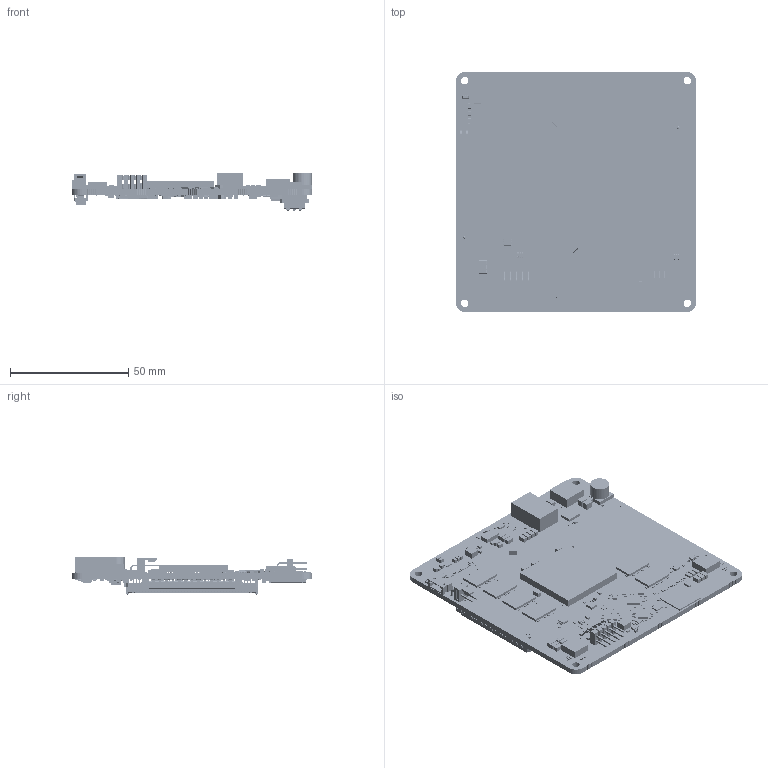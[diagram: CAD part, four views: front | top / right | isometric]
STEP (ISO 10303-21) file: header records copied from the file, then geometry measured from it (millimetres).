
FILE_DESCRIPTION(('Open CASCADE Model'),'2;1');
FILE_NAME('Open CASCADE Shape Model','2018-07-01T23:49:54',('Author'),( 'Open CASCADE'),'Open CASCADE STEP processor 6.8','Open CASCADE 6.8' ,'Unknown');
FILE_SCHEMA(('AUTOMOTIVE_DESIGN { 1 0 10303 214 1 1 1 1 }'));
Length unit declared in the file: millimetre
Products named in the file (853): PCB; Board; C248; SW3dPS-cap_d; C192; 1829630448; Extruded; 1829569872; Cylinder; 1829630720; 1829630856; 1829630992; C312; 1829636024; 1829636160; C311; 1829638744; 1829638608; C310; 1829639696; 1829639560; C256; 1829634936; 1829634800; C249; U23; 1829633440; D5; User_Library-SOT23-2; U13; 1829630312; R124; 1829637656; 1829637792; 1829637928; R147; X2; 1829630176; C309; R114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
Assembly tree (3336 placements, depth 6):
  PCB
    Board
    C248
      SW3dPS-cap_d
    C192
      1829630448  x2
        Extruded
      1829569872
        Cylinder
      1829630720
        Extruded
      1829630856
        Extruded
      1829630992
        Extruded
    C312
      1829636024  x2
        Extruded
      1829636160
        Extruded
    C311
      1829638744  x2
        Extruded
      1829638608
        Extruded
    C310
      1829639696
        Extruded
      1829639560  x2
        Extruded
    C256
      1829634936  x2
        Extruded
      1829634800
        Extruded
    C249
      1829634936  x2
        Extruded
      1829634800
        Extruded
    U23
      1829633440
        Extruded
    D5
      User_Library-SOT23-2
    U13
      1829630312
        Extruded
    R124
      1829637656  x2
        Extruded
      1829637792
        Extruded
      1829637928
        Extruded
    R147
      1829637656  x2
        Extruded
      1829637792
        Extruded
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Bounding box: 101.6 x 101.6 x 16.41 mm (x, y, z)
Volume: 34152.8 mm3; surface area: 45133.9 mm2
Topology: 2654 solids, 2667 shells, 32980 faces, 83628 edges, 53709 vertices
Faces by surface type: plane 26216, cylinder 3826, bspline 2787, sphere 126, cone 16, torus 9
Full cylindrical faces by diameter (mm): 0.256 x1, 0.388 x1, 0.887 x1, 0.965 x2, 1.012 x2, 1.1 x1, 1.118 x1, 1.2 x1, 1.27 x2, 1.575 x2, 1.778 x2, 3.175 x4, 8 x1, 8.255 x1
Entity records: 564704 total; most frequent: CARTESIAN_POINT 122791, ORIENTED_EDGE 85547, DIRECTION 81879, EDGE_CURVE 42784, LINE 34579, VECTOR 34579, VERTEX_POINT 28398, AXIS2_PLACEMENT_3D 23650
